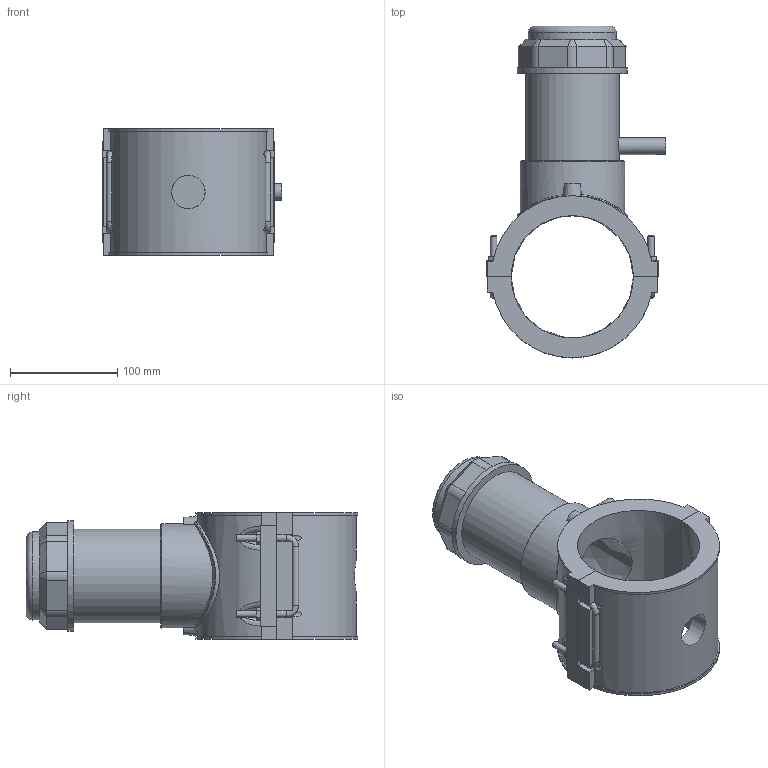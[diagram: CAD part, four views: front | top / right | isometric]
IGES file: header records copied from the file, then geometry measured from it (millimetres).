
Global section: file name: 5963BU03040005.ipt; native system: Autodesk Inventor 2019; preprocessor: unknown; author: KIM; date: 20210830.101456; units: millimetre
Bounding box: 167.88 x 309.74 x 118.11 mm (x, y, z)
Volume: 1396099.2 mm3; surface area: 220090.1 mm2
Topology: 1 solids, 3 shells, 215 faces, 569 edges, 370 vertices
Faces by surface type: plane 126, cylinder 40, revolution 28, cone 15, bspline 6
Full cylindrical faces by diameter (mm): 6 x8, 15.8 x1, 82.152 x1, 87.287 x1, 97.555 x1, 102.69 x1
